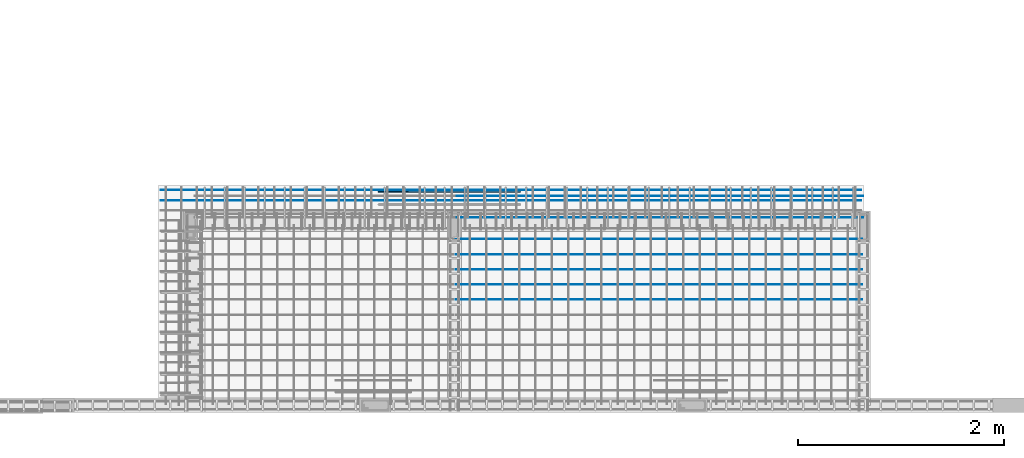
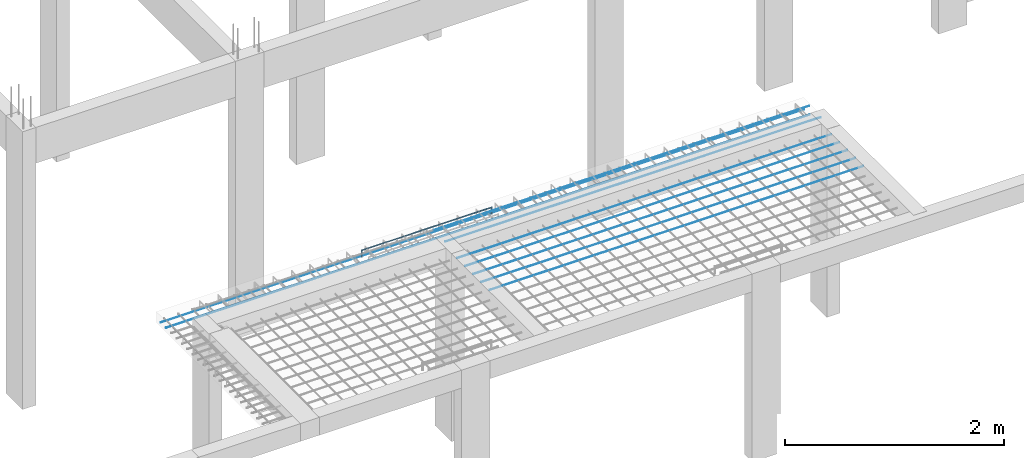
# One storey, part 42 of 236: 10 reinforcing bars.
"""IFC4 building model written with IfcOpenShell, lengths in centimetres."""

from ifc_helpers import new_model, entity, si_unit, derived_unit, frame, origin_with_axes, place, context, project, spatial, element, save


model = new_model("IFC4")

# Units and contexts
model_context = context("Model", 3, precision=1e-05, world=origin_with_axes(), identifier="Body")
ifc_project = project(units=[si_unit("LENGTHUNIT", "METRE", prefix="CENTI"), si_unit("VOLUMEUNIT", "CUBIC_METRE"), si_unit("AREAUNIT", "SQUARE_METRE"), si_unit("POWERUNIT", "WATT"), si_unit("LUMINOUSFLUXUNIT", "LUMEN"), si_unit("ELECTRICCURRENTUNIT", "AMPERE"), si_unit("PRESSUREUNIT", "PASCAL", prefix="KILO"), si_unit("MASSUNIT", "GRAM", prefix="KILO"), si_unit("PLANEANGLEUNIT", "RADIAN"), derived_unit("VOLUMETRICFLOWRATEUNIT", [(si_unit("LENGTHUNIT", "METRE"), 3), (si_unit("TIMEUNIT", "SECOND"), -1)])], contexts=[model_context])

# Site, building, storey
site_placement = place(None, frame((-4000.0, 0.0, 0.0), z_axis=(0.0, 0.0, 1.0), x_axis=(1.0, 0.0, 0.0)))
site = spatial("IfcSite", under=ifc_project, at=site_placement, Name="PADRÃO")
building_placement = place(site_placement, frame((0.0, 0.0, -14.0)))
building = spatial("IfcBuilding", under=site, at=building_placement, Name="CRECHE PRÉ-ESCOLA TIPO 2")
placement_1 = place(building_placement, origin_with_axes())
placement_2 = place(placement_1, frame((0.0, 0.0, 30.0), z_axis=(0.0, 0.0, 1.0), x_axis=(1.0, 0.0, 0.0)))
storey_placement = place(placement_2, frame((0.0, 0.0, 310.0), z_axis=(0.0, 0.0, 1.0), x_axis=(1.0, 0.0, 0.0)))
storey = spatial("IfcBuildingStorey", under=building, at=storey_placement, Name="TERREO", CompositionType="ELEMENT", Elevation=326.0)

# Reinforcing bars
for number, where, z_axis, x_axis, name in (
    (1, (2892.22, 207.75, -109.5), (0.0, 0.0, 1.0), (1.0, 0.0, 0.0), "L2 - Inferior X"),
    (2, (2892.22, 217.583333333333, -109.5), (0.0, 0.0, 1.0), (1.0, 0.0, 0.0), "L2 - Inferior X"),
):
    element("IfcReinforcingBar", number, at=place(storey_placement, frame(where, z_axis=z_axis, x_axis=x_axis)), inside=storey, Name=name, BarLength=0.0, CrossSectionArea=1.9634954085e-05, NominalDiameter=0.5, PredefinedType="MAIN", context=model_context, shape_type="AdvancedSweptSolid", body=[
        entity("IfcSweptDiskSolid", entity("IfcCompositeCurve", [entity("IfcCompositeCurveSegment", "CONTINUOUS", True, entity("IfcPolyline", [entity("IfcCartesianPoint", [-339.76, 0.0, -0.25]), entity("IfcCartesianPoint", [339.76, 0.0, -0.25])]))], False), 0.25),
    ])
reinforcing_bar_placement = place(storey_placement, frame((2832.46, 216.25, -101.995312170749), z_axis=(0.0, 0.0, 1.0), x_axis=(1.0, 0.0, 0.0)))
element("IfcReinforcingBar", 3, at=reinforcing_bar_placement, inside=storey, Name="L2 - Superior X", BarLength=0.0, CrossSectionArea=7.853981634e-05, NominalDiameter=1.0, PredefinedType="MAIN", context=model_context, shape_type="AdvancedSweptSolid", body=[
    entity("IfcSweptDiskSolid", entity("IfcCompositeCurve", [entity("IfcCompositeCurveSegment", "CONTINUOUS", True, entity("IfcPolyline", [entity("IfcCartesianPoint", [-68.5, 0.0, -8.0046878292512]), entity("IfcCartesianPoint", [-68.5, 0.0, -0.504687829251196])])), entity("IfcCompositeCurveSegment", "CONTINUOUS", True, entity("IfcPolyline", [entity("IfcCartesianPoint", [-68.5, 0.0, -0.504687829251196]), entity("IfcCartesianPoint", [68.5, 0.0, -0.504687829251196])])), entity("IfcCompositeCurveSegment", "CONTINUOUS", True, entity("IfcPolyline", [entity("IfcCartesianPoint", [68.5, 0.0, -0.504687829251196]), entity("IfcCartesianPoint", [68.5, 0.0, -8.0046878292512])]))], False), 0.5),
])
for number, where, z_axis, x_axis, name in (
    (4, (3035.74, 212.057982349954, -103.0), (0.0, 0.0, 1.0), (1.0, 0.0, 0.0), "L3 - Complementar"),
    (5, (3035.74, 191.019327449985, -103.0), (0.0, 0.0, 1.0), (1.0, 0.0, 0.0), "L3 - Complementar"),
):
    element("IfcReinforcingBar", number, at=place(storey_placement, frame(where, z_axis=z_axis, x_axis=x_axis)), inside=storey, Name=name, BarLength=0.0, CrossSectionArea=1.9634954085e-05, NominalDiameter=0.5, PredefinedType="MAIN", context=model_context, shape_type="AdvancedSweptSolid", body=[
        entity("IfcSweptDiskSolid", entity("IfcCompositeCurve", [entity("IfcCompositeCurveSegment", "CONTINUOUS", True, entity("IfcPolyline", [entity("IfcCartesianPoint", [-198.25, 0.0, -0.25]), entity("IfcCartesianPoint", [198.25, 0.0, -0.25])]))], False), 0.25),
    ])
for number, where, z_axis, x_axis, name in (
    (6, (3035.735, 170.159090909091, -109.0), (0.0, 0.0, 1.0), (1.0, 0.0, 0.0), "L3 - Inferior Y"),
    (7, (3035.735, 155.477272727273, -109.0), (0.0, 0.0, 1.0), (1.0, 0.0, 0.0), "L3 - Inferior Y"),
    (8, (3035.735, 126.113636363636, -109.0), (0.0, 0.0, 1.0), (1.0, 0.0, 0.0), "L3 - Inferior Y"),
    (9, (3035.735, 111.431818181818, -109.0), (0.0, 0.0, 1.0), (1.0, 0.0, 0.0), "L3 - Inferior Y"),
    (10, (3035.735, 140.795454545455, -109.0), (0.0, 0.0, 1.0), (1.0, 0.0, 0.0), "L3 - Inferior Y"),
):
    element("IfcReinforcingBar", number, at=place(storey_placement, frame(where, z_axis=z_axis, x_axis=x_axis)), inside=storey, Name=name, BarLength=0.0, CrossSectionArea=1.9634954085e-05, NominalDiameter=0.5, PredefinedType="MAIN", context=model_context, shape_type="AdvancedSweptSolid", body=[
        entity("IfcSweptDiskSolid", entity("IfcCompositeCurve", [entity("IfcCompositeCurveSegment", "CONTINUOUS", True, entity("IfcPolyline", [entity("IfcCartesianPoint", [197.245, 0.0, -0.25]), entity("IfcCartesianPoint", [-197.245, 0.0, -0.25])]))], False), 0.25),
    ])

save(model, "model.ifc")
